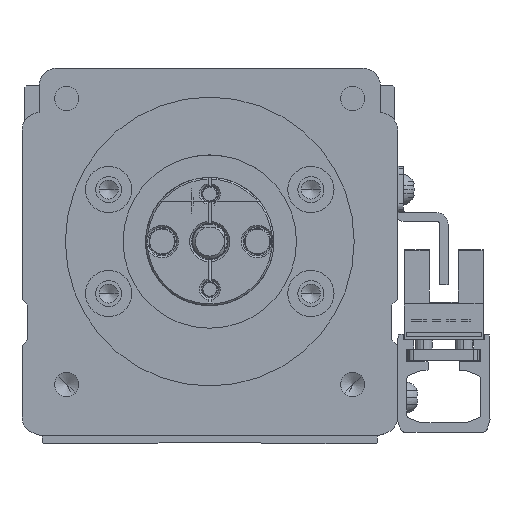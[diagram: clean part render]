
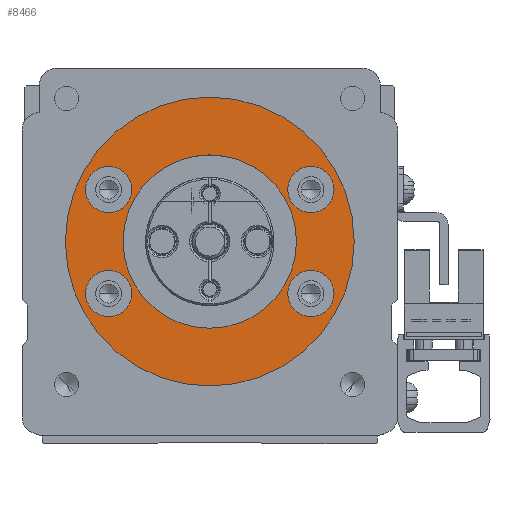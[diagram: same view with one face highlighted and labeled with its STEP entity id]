
A CAD part, front view. The second image highlights one B-rep face of the part: STEP entity #8466.
In plain terms, the highlighted planar face has unit normal (0, -1, 0).
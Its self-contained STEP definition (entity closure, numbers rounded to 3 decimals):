
#8466=ADVANCED_FACE('',(#17191,#17192,#17193,#17194,#17195,#17196),#17197,.F.);
#17191=FACE_BOUND('',#27324,.T.);
#17192=FACE_BOUND('',#27325,.T.);
#17193=FACE_BOUND('',#27326,.T.);
#17194=FACE_BOUND('',#27327,.T.);
#17195=FACE_BOUND('',#27328,.T.);
#17196=FACE_OUTER_BOUND('',#27329,.T.);
#17197=PLANE('',#27330);
#27324=EDGE_LOOP('',(#51060,#51061));
#27325=EDGE_LOOP('',(#51062,#51063));
#27326=EDGE_LOOP('',(#51064,#51065));
#27327=EDGE_LOOP('',(#51066,#51067));
#27328=EDGE_LOOP('',(#51068,#51069));
#27329=EDGE_LOOP('',(#51070,#51071));
#27330=AXIS2_PLACEMENT_3D('',#51072,#51073,#51074);
#51060=ORIENTED_EDGE('',*,*,#60121,.T.);
#51061=ORIENTED_EDGE('',*,*,#59249,.T.);
#51062=ORIENTED_EDGE('',*,*,#65231,.T.);
#51063=ORIENTED_EDGE('',*,*,#61172,.T.);
#51064=ORIENTED_EDGE('',*,*,#59392,.T.);
#51065=ORIENTED_EDGE('',*,*,#61176,.T.);
#51066=ORIENTED_EDGE('',*,*,#58846,.T.);
#51067=ORIENTED_EDGE('',*,*,#62146,.T.);
#51068=ORIENTED_EDGE('',*,*,#56071,.T.);
#51069=ORIENTED_EDGE('',*,*,#61381,.T.);
#51070=ORIENTED_EDGE('',*,*,#60461,.T.);
#51071=ORIENTED_EDGE('',*,*,#61539,.T.);
#51072=CARTESIAN_POINT('',(300.,65.,0.));
#51073=DIRECTION('',(0.,1.0,0.));
#51074=DIRECTION('',(1.0,0.,0.));
#56071=EDGE_CURVE('',#66678,#66676,#66679,.T.);
#58846=EDGE_CURVE('',#71490,#71488,#71491,.T.);
#59249=EDGE_CURVE('',#72145,#72149,#72151,.T.);
#59392=EDGE_CURVE('',#72376,#72374,#72377,.T.);
#60121=EDGE_CURVE('',#72149,#72145,#73541,.T.);
#60461=EDGE_CURVE('',#74048,#74053,#74055,.T.);
#61172=EDGE_CURVE('',#75084,#75088,#75090,.T.);
#61176=EDGE_CURVE('',#72374,#72376,#75094,.T.);
#61381=EDGE_CURVE('',#66676,#66678,#75387,.T.);
#61539=EDGE_CURVE('',#74053,#74048,#75617,.T.);
#62146=EDGE_CURVE('',#71488,#71490,#76477,.T.);
#65231=EDGE_CURVE('',#75088,#75084,#80359,.T.);
#66676=VERTEX_POINT('',#82071);
#66678=VERTEX_POINT('',#82074);
#66679=CIRCLE('',#82075,15.0);
#71488=VERTEX_POINT('',#88990);
#71490=VERTEX_POINT('',#88993);
#71491=CIRCLE('',#88994,4.0);
#72145=VERTEX_POINT('',#89946);
#72149=VERTEX_POINT('',#89951);
#72151=CIRCLE('',#89954,4.0);
#72374=VERTEX_POINT('',#90326);
#72376=VERTEX_POINT('',#90329);
#72377=CIRCLE('',#90330,4.0);
#73541=CIRCLE('',#91942,4.0);
#74048=VERTEX_POINT('',#92638);
#74053=VERTEX_POINT('',#92644);
#74055=CIRCLE('',#92647,25.0);
#75084=VERTEX_POINT('',#94174);
#75088=VERTEX_POINT('',#94179);
#75090=CIRCLE('',#94182,4.0);
#75094=CIRCLE('',#94187,4.0);
#75387=CIRCLE('',#94602,15.0);
#75617=CIRCLE('',#94914,25.0);
#76477=CIRCLE('',#96128,4.0);
#80359=CIRCLE('',#101750,4.0);
#82071=CARTESIAN_POINT('',(315.,65.,0.));
#82074=CARTESIAN_POINT('',(285.,65.,0.));
#82075=AXIS2_PLACEMENT_3D('',#103360,#103361,#103362);
#88990=CARTESIAN_POINT('',(313.5,65.,9.));
#88993=CARTESIAN_POINT('',(321.5,65.,9.));
#88994=AXIS2_PLACEMENT_3D('',#107104,#107105,#107106);
#89946=CARTESIAN_POINT('',(278.5,65.,-9.));
#89951=CARTESIAN_POINT('',(286.5,65.,-9.));
#89954=AXIS2_PLACEMENT_3D('',#107645,#107646,#107647);
#90326=CARTESIAN_POINT('',(278.5,65.,9.));
#90329=CARTESIAN_POINT('',(286.5,65.,9.));
#90330=AXIS2_PLACEMENT_3D('',#107802,#107803,#107804);
#91942=AXIS2_PLACEMENT_3D('',#108740,#108741,#108742);
#92638=CARTESIAN_POINT('',(325.,65.,0.));
#92644=CARTESIAN_POINT('',(275.,65.,0.));
#92647=AXIS2_PLACEMENT_3D('',#109175,#109176,#109177);
#94174=CARTESIAN_POINT('',(313.5,65.,-9.));
#94179=CARTESIAN_POINT('',(321.5,65.,-9.));
#94182=AXIS2_PLACEMENT_3D('',#110042,#110043,#110044);
#94187=AXIS2_PLACEMENT_3D('',#110046,#110047,#110048);
#94602=AXIS2_PLACEMENT_3D('',#110296,#110297,#110298);
#94914=AXIS2_PLACEMENT_3D('',#110477,#110478,#110479);
#96128=AXIS2_PLACEMENT_3D('',#111198,#111199,#111200);
#101750=AXIS2_PLACEMENT_3D('',#114431,#114432,#114433);
#103360=CARTESIAN_POINT('',(300.,65.,0.));
#103361=DIRECTION('',(0.,1.0,0.));
#103362=DIRECTION('',(1.0,0.,0.));
#107104=CARTESIAN_POINT('',(317.5,65.,9.));
#107105=DIRECTION('',(0.,1.0,0.));
#107106=DIRECTION('',(-1.0,0.,0.));
#107645=CARTESIAN_POINT('',(282.5,65.,-9.));
#107646=DIRECTION('',(0.,1.0,0.));
#107647=DIRECTION('',(-1.0,0.,0.));
#107802=CARTESIAN_POINT('',(282.5,65.,9.));
#107803=DIRECTION('',(0.,1.0,0.));
#107804=DIRECTION('',(-1.0,0.,0.));
#108740=CARTESIAN_POINT('',(282.5,65.,-9.));
#108741=DIRECTION('',(0.,1.0,0.));
#108742=DIRECTION('',(-1.0,0.,0.));
#109175=CARTESIAN_POINT('',(300.,65.,0.));
#109176=DIRECTION('',(0.,-1.0,0.));
#109177=DIRECTION('',(1.0,0.,0.));
#110042=CARTESIAN_POINT('',(317.5,65.,-9.));
#110043=DIRECTION('',(0.,1.0,0.));
#110044=DIRECTION('',(-1.0,0.,0.));
#110046=CARTESIAN_POINT('',(282.5,65.,9.));
#110047=DIRECTION('',(0.,1.0,0.));
#110048=DIRECTION('',(-1.0,0.,0.));
#110296=CARTESIAN_POINT('',(300.,65.,0.));
#110297=DIRECTION('',(0.,1.0,0.));
#110298=DIRECTION('',(1.0,0.,0.));
#110477=CARTESIAN_POINT('',(300.,65.,0.));
#110478=DIRECTION('',(0.,-1.0,0.));
#110479=DIRECTION('',(1.0,0.,0.));
#111198=CARTESIAN_POINT('',(317.5,65.,9.));
#111199=DIRECTION('',(0.,1.0,0.));
#111200=DIRECTION('',(-1.0,0.,0.));
#114431=CARTESIAN_POINT('',(317.5,65.,-9.));
#114432=DIRECTION('',(0.,1.0,0.));
#114433=DIRECTION('',(-1.0,0.,0.));
